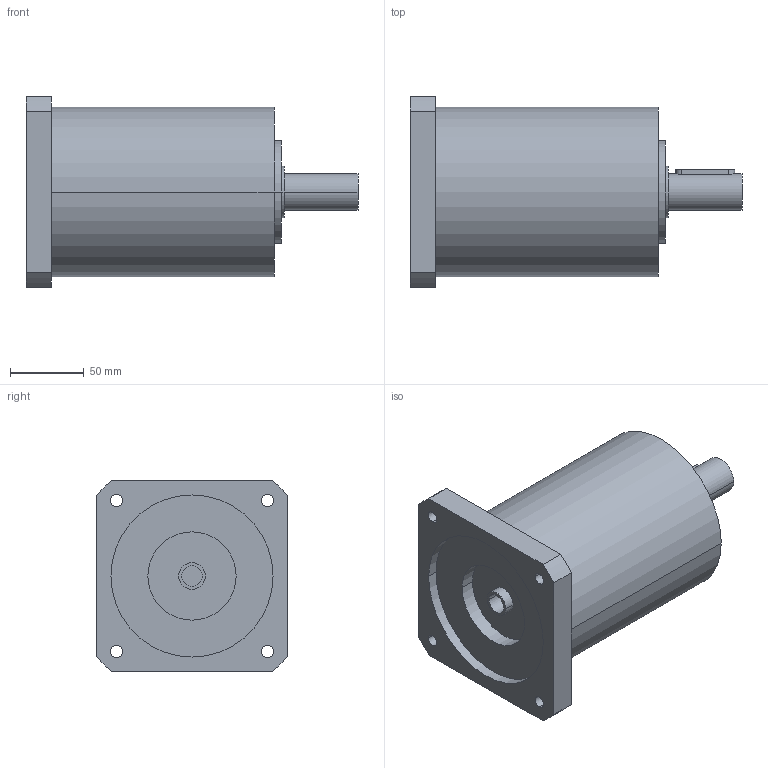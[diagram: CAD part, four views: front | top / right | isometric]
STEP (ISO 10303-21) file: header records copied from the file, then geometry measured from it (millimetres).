
FILE_DESCRIPTION(('CoCreate Modeling STEP Export'),'2;1');
FILE_NAME('GPR125_ig-9-12-16-20-28-35_25_B14_14_P12.stp','2014-08-26T14:09:42',(''),(''),'CoCreate Modeling STEP processor for AP214 (Solid Model)','CoCreate Modeling 16.00C 25-Feb-2009 (C) Parametric Technology GmbH','');
FILE_SCHEMA(('AUTOMOTIVE_DESIGN { 1 0 10303 214 1 1 1 1 }'));
Length unit declared in the file: millimetre
Products named in the file (2): GPR125_ig-9-12-16-20-28-35_25_B14_14_P12
Assembly tree (1 placements, depth 2):
  GPR125_ig-9-12-16-20-28-35_25_B14_14_P12
    GPR125_ig-9-12-16-20-28-35_25_B14_14_P12
Bounding box: 225.4 x 130 x 130 mm (x, y, z)
Volume: 1797124.2 mm3; surface area: 112176.1 mm2
Topology: 1 solids, 1 shells, 65 faces, 180 edges, 128 vertices
Faces by surface type: cylinder 40, plane 21, cone 4
Entity records: 1853 total; most frequent: ORIENTED_EDGE 356, CARTESIAN_POINT 351, DIRECTION 248, EDGE_CURVE 178, VERTEX_POINT 128, AXIS2_PLACEMENT_3D 93, EDGE_LOOP 86, FACE_OUTER_BOUND 65
